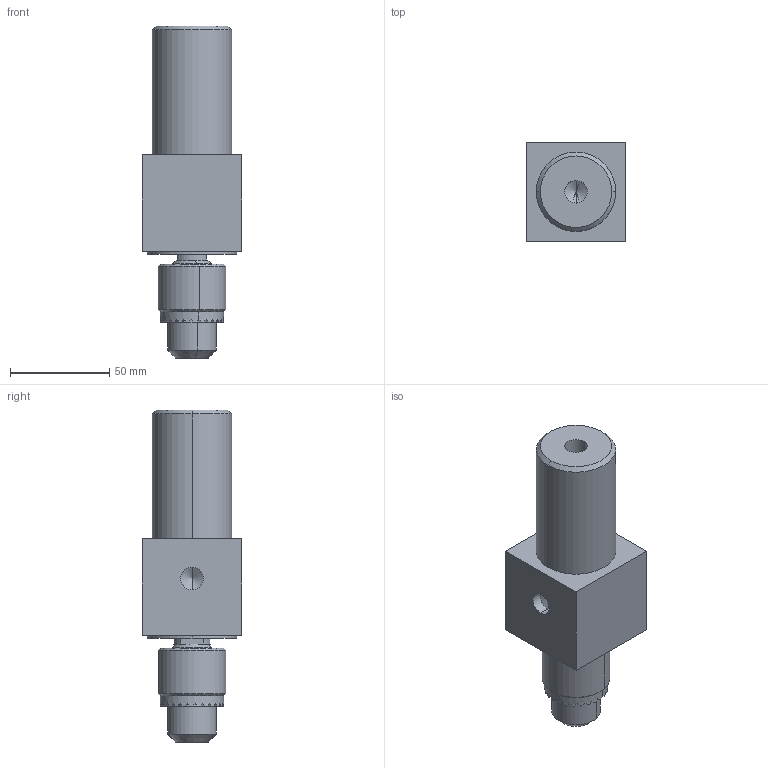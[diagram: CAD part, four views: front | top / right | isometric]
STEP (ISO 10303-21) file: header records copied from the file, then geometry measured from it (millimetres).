
FILE_DESCRIPTION (( 'STEP AP203' ), '1' );
FILE_NAME ('BE3326-33210SK with keychuck 0,8-10,0mm.STEP', '2009-10-15T07:34:59', ( 'HP' ), ( '' ), 'SwSTEP 2.0', 'SolidWorks 2008', '' );
FILE_SCHEMA (( 'CONFIG_CONTROL_DESIGN' ));
Length unit declared in the file: millimetre
Products named in the file (3): BE3326-33210SK; BE3326-33210SK with keychuck 0,8-10,0mm; 041J004002 keychuck 0,8-10mm
Assembly tree (2 placements, depth 2):
  BE3326-33210SK with keychuck 0,8-10,0mm
    041J004002 keychuck 0,8-10mm
    BE3326-33210SK
Bounding box: 50 x 50 x 167.4 mm (x, y, z)
Volume: 231875.9 mm3; surface area: 33342.9 mm2
Topology: 2 solids, 2 shells, 177 faces, 420 edges, 247 vertices
Faces by surface type: plane 121, cylinder 30, cone 26
Entity records: 5195 total; most frequent: CARTESIAN_POINT 991, DIRECTION 816, ORIENTED_EDGE 812, EDGE_CURVE 406, AXIS2_PLACEMENT_3D 280, VECTOR 256, LINE 256, VERTEX_POINT 247
